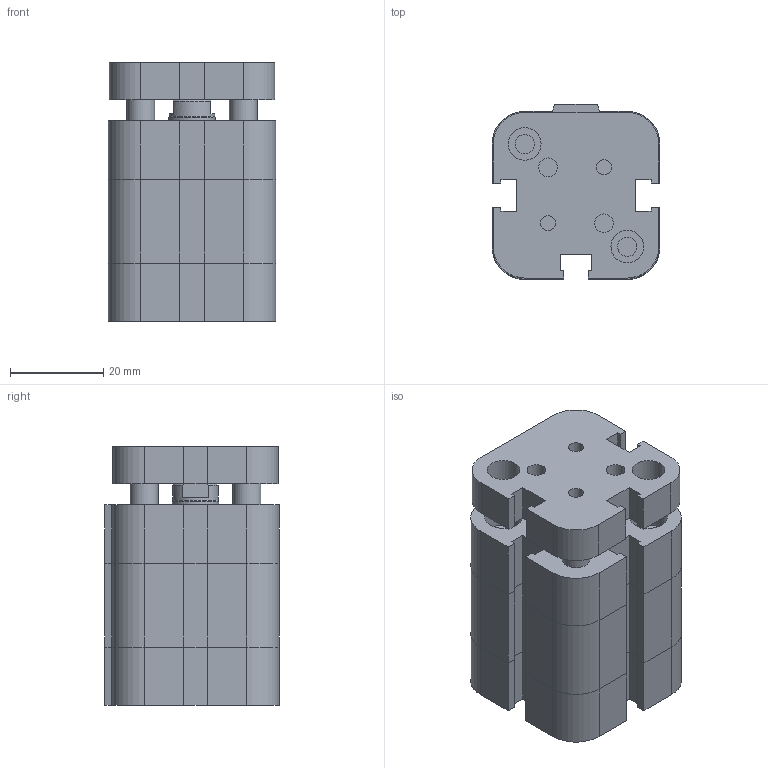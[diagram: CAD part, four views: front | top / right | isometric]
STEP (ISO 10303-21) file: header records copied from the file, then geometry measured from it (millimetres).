
FILE_DESCRIPTION((''),'2;1');
FILE_NAME('I:\Area Tecnica\Disegni\VARIE-3D\Componenti\EUROPE\15##_###_####_07_#\1581_20_0005_07_1.iam.stp','2009-04-20T15:19:36',(''),(''),'Autodesk Inventor 2009','Autodesk Inventor 2009','');
FILE_SCHEMA(('AUTOMOTIVE_DESIGN { 1 0 10303 214 1 1 1 1 }'));
Length unit declared in the file: millimetre
Products named in the file (3): 1581_20_0005_07_1; 1581_20_0005_07_1_C; 1561_20_0005_07_1_SA
Assembly tree (2 placements, depth 2):
  1581_20_0005_07_1
    1581_20_0005_07_1_C
    1561_20_0005_07_1_SA
Bounding box: 36 x 37.5 x 55.5 mm (x, y, z)
Volume: 56432.3 mm3; surface area: 19305.2 mm2
Topology: 2 solids, 2 shells, 206 faces, 483 edges, 301 vertices
Faces by surface type: plane 135, bspline 44, cylinder 21, cone 6
Full cylindrical faces by diameter (mm): 6 x2, 9.8 x2, 10 x1
Entity records: 6055 total; most frequent: CARTESIAN_POINT 1405, ORIENTED_EDGE 876, DIRECTION 854, EDGE_CURVE 438, VECTOR 340, LINE 340, VERTEX_POINT 286, EDGE_LOOP 268
